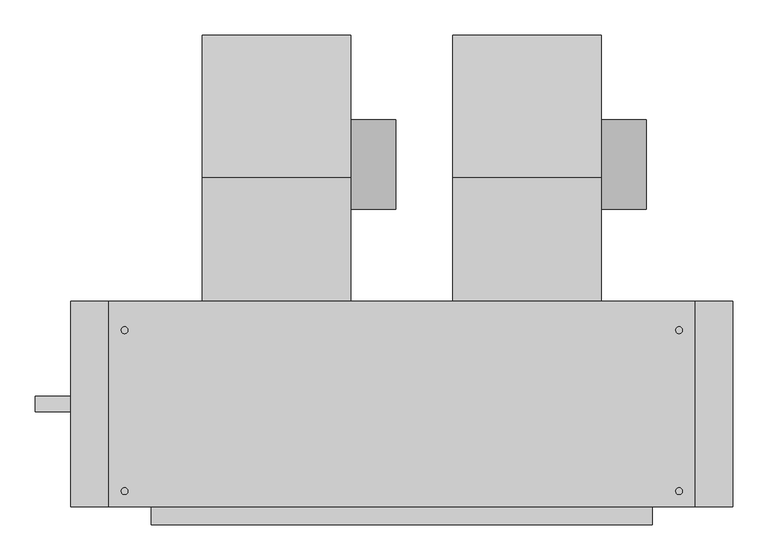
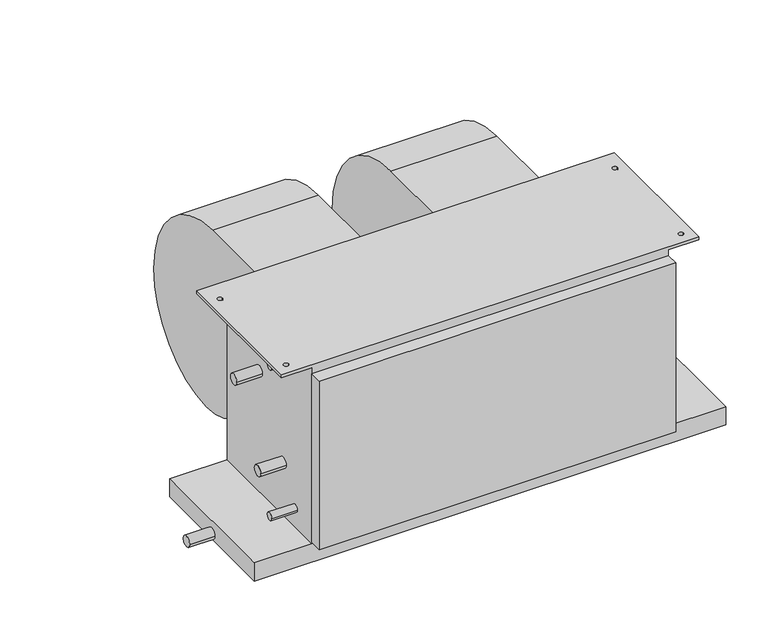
"""IFC4 building model written with IfcOpenShell, lengths in millimetres: proxy geometry, Concealed_High_Capacity_Horizontal_Fan_Coil_Unit_-_42DAA_-_CARRIER_-_4-Pipe_LH_2022 : Size 12 - 277v/60Hz/1Ph - 6/2 Coil."""

from ifc_helpers import new_model, si_unit, point, frame, frame_2d, origin, place, context, project, spatial, polyline, circle_curve, trimmed, segment, composite_curve, outline, extrude, source, transform, mapped, element, save
from ifc_brep_helpers import plane_surface, cylinder_surface, revolved_surface, advanced_brep


def mechanical_equipment_55c23c7e(model_context):
    return source(origin(), model_context, "Body", "SolidModel", [
        extrude(outline(composite_curve([segment(trimmed(circle_curve(frame_2d((117.8757598, -213.2397468)), 63.5), [point((181.3757598, -213.2397468))], [point((54.3757598, -213.2397468))], False, "CARTESIAN"), True, "CONTINUOUS"), segment(trimmed(circle_curve(frame_2d((117.8757598, -213.2397468)), 63.5), [point((54.3757598, -213.2397468))], [point((181.3757598, -213.2397468))], False, "CARTESIAN"), True, "CONTINUOUS")], self_intersect=False)), frame((207.137, 0.0, 0.0), z_axis=(1.0, 0.0, 0.0), x_axis=(0.0, 1.0, 0.0)), (0.0, 0.0, 1.0), 63.5),
        advanced_brep(
        [(-3.937, 301.3905957, -228.379602), (-3.937, 120.4976, -409.99664), (-3.937, -35.0266, -283.45638), (-3.937, -76.2, -283.45638), (-3.937, -76.2, -25.4), (-3.937, 98.8830093, -25.4), (207.137, 301.3905957, -228.379602), (207.137, 98.8830093, -25.4), (207.137, -76.2, -25.4), (207.137, -76.2, -283.45638), (207.137, -35.0266, -283.45638), (207.137, 120.497599, -409.9957839)],
        [
            (0, 1, circle_curve(frame((-3.937, 120.31726, -228.92258), z_axis=(-1.0, 0.0, 0.0), x_axis=(0.0, -1.0, 0.0)), 181.0741498)),
            (1, 2, circle_curve(frame((-3.937, 120.31726, -251.37364), z_axis=(-1.0, 0.0, 0.0), x_axis=(0.0, -1.0, 0.0)), 158.6222464)),
            (2, 3),
            (3, 4),
            (4, 5),
            (5, 0, circle_curve(frame((-3.937, 97.8662, -228.92258), z_axis=(-1.0, 0.0, 0.0), x_axis=(0.0, -1.0, 0.0)), 203.52512)),
            (6, 7, circle_curve(frame((207.137, 97.8662, -228.92258), z_axis=(1.0, 0.0, 0.0), x_axis=(0.0, -1.0, 0.0)), 203.52512)),
            (7, 8),
            (8, 9),
            (9, 10),
            (10, 11, circle_curve(frame((207.137, 120.31726, -251.37364), z_axis=(1.0, 0.0, 0.0), x_axis=(0.0, -1.0, 0.0)), 158.6222464)),
            (11, 6, circle_curve(frame((207.137, 120.31726, -228.92258), z_axis=(1.0, 0.0, 0.0), x_axis=(0.0, -1.0, 0.0)), 181.0741498)),
            (0, 6),
            (11, 1),
            (10, 2),
            (9, 3),
            (8, 4),
            (7, 5),
        ],
        [
            plane_surface(frame((-3.937, -60.7568898, -228.92258), z_axis=(-1.0, 0.0, 0.0), x_axis=(0.0, 0.0, 1.0))),
            plane_surface(frame((207.137, -60.7568898, -228.92258), z_axis=(1.0, 0.0, 0.0), x_axis=(0.0, 0.0, -1.0))),
            cylinder_surface(frame((207.137, 120.31726, -228.92258), z_axis=(-1.0, 0.0, 0.0), x_axis=(0.0, -1.0, 0.0)), 181.0741498),
            cylinder_surface(frame((207.137, 120.31726, -251.37364), z_axis=(-1.0, 0.0, 0.0), x_axis=(0.0, -1.0, 0.0)), 158.6222464),
            plane_surface(frame((-3.937, -35.0266, -283.45638), z_axis=(0.0, 0.0, -1.0), x_axis=(1.0, 0.0, 0.0))),
            plane_surface(frame((-3.937, -76.2, -283.45638), z_axis=(0.0, -1.0, 0.0), x_axis=(1.0, 0.0, 0.0))),
            plane_surface(frame((-3.937, -76.2, -25.4), z_axis=(0.0, 0.0, 1.0), x_axis=(1.0, 0.0, 0.0))),
            cylinder_surface(frame((207.137, 97.8662, -228.92258), z_axis=(-1.0, 0.0, 0.0), x_axis=(0.0, -1.0, 0.0)), 203.52512),
        ],
        [
            (0, [[1, 2, 3, 4, 5, 6]]),
            (1, [[7, 8, 9, 10, 11, 12]]),
            (2, [[-1, 13, -12, 14]]),
            (3, [[-2, -14, -11, 15]]),
            (4, [[-3, -15, -10, 16]]),
            (5, [[-4, -16, -9, 17]]),
            (6, [[-5, -17, -8, 18]]),
            (7, [[-6, -18, -7, -13]]),
        ],
    ),
        extrude(outline(composite_curve([segment(trimmed(circle_curve(frame_2d((117.8757598, -213.2397468)), 63.5), [point((181.3757598, -213.2397468))], [point((54.3757598, -213.2397468))], False, "CARTESIAN"), True, "CONTINUOUS"), segment(trimmed(circle_curve(frame_2d((117.8757598, -213.2397468)), 63.5), [point((54.3757598, -213.2397468))], [point((181.3757598, -213.2397468))], False, "CARTESIAN"), True, "CONTINUOUS")], self_intersect=False)), frame((562.737, 0.0, 0.0), z_axis=(1.0, 0.0, 0.0), x_axis=(0.0, 1.0, 0.0)), (0.0, 0.0, 1.0), 63.5),
        advanced_brep(
        [(351.663, 301.3905957, -228.379602), (351.663, 120.4976, -409.99664), (351.663, -35.0266, -283.45638), (351.663, -76.2, -283.45638), (351.663, -76.2, -25.4), (351.663, 98.8830093, -25.4), (562.737, 301.3905957, -228.379602), (562.737, 98.8830093, -25.4), (562.737, -76.2, -25.4), (562.737, -76.2, -283.45638), (562.737, -35.0266, -283.45638), (562.737, 120.497599, -409.9957839)],
        [
            (0, 1, circle_curve(frame((351.663, 120.31726, -228.92258), z_axis=(-1.0, 0.0, 0.0), x_axis=(0.0, -1.0, 0.0)), 181.0741498)),
            (1, 2, circle_curve(frame((351.663, 120.31726, -251.37364), z_axis=(-1.0, 0.0, 0.0), x_axis=(0.0, -1.0, 0.0)), 158.6222464)),
            (2, 3),
            (3, 4),
            (4, 5),
            (5, 0, circle_curve(frame((351.663, 97.8662, -228.92258), z_axis=(-1.0, 0.0, 0.0), x_axis=(0.0, -1.0, 0.0)), 203.52512)),
            (6, 7, circle_curve(frame((562.737, 97.8662, -228.92258), z_axis=(1.0, 0.0, 0.0), x_axis=(0.0, -1.0, 0.0)), 203.52512)),
            (7, 8),
            (8, 9),
            (9, 10),
            (10, 11, circle_curve(frame((562.737, 120.31726, -251.37364), z_axis=(1.0, 0.0, 0.0), x_axis=(0.0, -1.0, 0.0)), 158.6222464)),
            (11, 6, circle_curve(frame((562.737, 120.31726, -228.92258), z_axis=(1.0, 0.0, 0.0), x_axis=(0.0, -1.0, 0.0)), 181.0741498)),
            (0, 6),
            (11, 1),
            (10, 2),
            (9, 3),
            (8, 4),
            (7, 5),
        ],
        [
            plane_surface(frame((351.663, -60.7568898, -228.92258), z_axis=(-1.0, 0.0, 0.0), x_axis=(0.0, 0.0, 1.0))),
            plane_surface(frame((562.737, -60.7568898, -228.92258), z_axis=(1.0, 0.0, 0.0), x_axis=(0.0, 0.0, -1.0))),
            cylinder_surface(frame((562.737, 120.31726, -228.92258), z_axis=(-1.0, 0.0, 0.0), x_axis=(0.0, -1.0, 0.0)), 181.0741498),
            cylinder_surface(frame((562.737, 120.31726, -251.37364), z_axis=(-1.0, 0.0, 0.0), x_axis=(0.0, -1.0, 0.0)), 158.6222464),
            plane_surface(frame((351.663, -35.0266, -283.45638), z_axis=(0.0, 0.0, -1.0), x_axis=(1.0, 0.0, 0.0))),
            plane_surface(frame((351.663, -76.2, -283.45638), z_axis=(0.0, -1.0, 0.0), x_axis=(1.0, 0.0, 0.0))),
            plane_surface(frame((351.663, -76.2, -25.4), z_axis=(0.0, 0.0, 1.0), x_axis=(1.0, 0.0, 0.0))),
            cylinder_surface(frame((562.737, 97.8662, -228.92258), z_axis=(-1.0, 0.0, 0.0), x_axis=(0.0, -1.0, 0.0)), 203.52512),
        ],
        [
            (0, [[1, 2, 3, 4, 5, 6]]),
            (1, [[7, 8, 9, 10, 11, 12]]),
            (2, [[-1, 13, -12, 14]]),
            (3, [[-2, -14, -11, 15]]),
            (4, [[-3, -15, -10, 16]]),
            (5, [[-4, -16, -9, 17]]),
            (6, [[-5, -17, -8, 18]]),
            (7, [[-6, -18, -7, -13]]),
        ],
    ),
        extrude(outline(polyline([(749.3, -76.2), (749.3, -368.3), (-190.5, -368.3), (-190.5, -76.2), (749.3, -76.2)])), frame((0.0, 0.0, -415.925), z_axis=(0.0, 0.0, 1.0), x_axis=(1.0, 0.0, 0.0)), (0.0, 0.0, 1.0), 38.1),
        extrude(outline(polyline([(635.0, -393.7), (-76.2, -393.7), (-76.2, -368.3), (635.0, -368.3), (635.0, -393.7)])), frame((0.0, 0.0, -374.65), z_axis=(0.0, 0.0, 1.0), x_axis=(1.0, 0.0, 0.0)), (0.0, 0.0, 1.0), 355.6),
        extrude(outline(composite_curve([segment(trimmed(circle_curve(frame_2d((-222.25, -403.225)), 11.1125), [point((-233.3625, -403.225))], [point((-211.1375, -403.225))], False, "CARTESIAN"), True, "CONTINUOUS"), segment(trimmed(circle_curve(frame_2d((-222.25, -403.225)), 11.1125), [point((-211.1375, -403.225))], [point((-233.3625, -403.225))], False, "CARTESIAN"), True, "CONTINUOUS")], self_intersect=False)), frame((-241.3, 0.0, 0.0), z_axis=(1.0, 0.0, 0.0), x_axis=(0.0, 1.0, 0.0)), (0.0, 0.0, 1.0), 50.8),
        extrude(outline(composite_curve([segment(trimmed(circle_curve(frame_2d((-187.325, -122.2375)), 11.1125), [point((-198.4375, -122.2375))], [point((-176.2125, -122.2375))], False, "CARTESIAN"), True, "CONTINUOUS"), segment(trimmed(circle_curve(frame_2d((-187.325, -122.2375)), 11.1125), [point((-176.2125, -122.2375))], [point((-198.4375, -122.2375))], False, "CARTESIAN"), True, "CONTINUOUS")], self_intersect=False)), frame((-127.0, 0.0, 0.0), z_axis=(1.0, 0.0, 0.0), x_axis=(0.0, 1.0, 0.0)), (0.0, 0.0, 1.0), 50.8),
        extrude(outline(composite_curve([segment(trimmed(circle_curve(frame_2d((-269.875, -265.1125)), 11.1125), [point((-280.9875, -265.1125))], [point((-258.7625, -265.1125))], False, "CARTESIAN"), True, "CONTINUOUS"), segment(trimmed(circle_curve(frame_2d((-269.875, -265.1125)), 11.1125), [point((-258.7625, -265.1125))], [point((-280.9875, -265.1125))], False, "CARTESIAN"), True, "CONTINUOUS")], self_intersect=False)), frame((-127.0, 0.0, 0.0), z_axis=(1.0, 0.0, 0.0), x_axis=(0.0, 1.0, 0.0)), (0.0, 0.0, 1.0), 50.8),
        extrude(outline(composite_curve([segment(trimmed(circle_curve(frame_2d((-311.15, -19.05)), 7.9375), [point((-319.0875, -19.05))], [point((-303.2125, -19.05))], False, "CARTESIAN"), True, "CONTINUOUS"), segment(trimmed(circle_curve(frame_2d((-311.15, -19.05)), 7.9375), [point((-303.2125, -19.05))], [point((-319.0875, -19.05))], False, "CARTESIAN"), True, "CONTINUOUS")], self_intersect=False)), frame((-127.0, 0.0, 0.0), z_axis=(1.0, 0.0, 0.0), x_axis=(0.0, 1.0, 0.0)), (0.0, 0.0, 1.0), 50.8),
        extrude(outline(composite_curve([segment(trimmed(circle_curve(frame_2d((-311.15, -336.55)), 7.9375), [point((-319.0875, -336.55))], [point((-303.2125, -336.55))], False, "CARTESIAN"), True, "CONTINUOUS"), segment(trimmed(circle_curve(frame_2d((-311.15, -336.55)), 7.9375), [point((-303.2125, -336.55))], [point((-319.0875, -336.55))], False, "CARTESIAN"), True, "CONTINUOUS")], self_intersect=False)), frame((-127.0, 0.0, 0.0), z_axis=(1.0, 0.0, 0.0), x_axis=(0.0, 1.0, 0.0)), (0.0, 0.0, 1.0), 50.8),
        advanced_brep(
        [(635.0, -76.2, -377.825), (635.0, -368.3, -377.825), (-76.2, -368.3, -377.825), (-76.2, -76.2, -377.825), (-76.2, -368.3, -6.35), (-76.2, -76.2, -6.35), (635.0, -76.2, -6.35), (635.0, -368.3, -6.35), (-136.525, -76.2, 0.0), (-136.525, -368.3, 0.0), (695.325, -368.3, 0.0), (695.325, -76.2, 0.0), (-109.5375, -117.475, 0.0), (-119.0625, -117.475, 0.0), (-109.5375, -346.075, 0.0), (-119.0625, -346.075, 0.0), (677.8625, -117.475, 0.0), (668.3375, -117.475, 0.0), (677.8625, -346.075, 0.0), (668.3375, -346.075, 0.0), (-136.525, -76.2, -6.35), (-136.525, -368.3, -6.35), (-119.0625, -117.475, -6.35), (-109.5375, -117.475, -6.35), (-119.0625, -346.075, -6.35), (-109.5375, -346.075, -6.35), (695.325, -76.2, -6.35), (695.325, -368.3, -6.35), (668.3375, -117.475, -6.35), (677.8625, -117.475, -6.35), (668.3375, -346.075, -6.35), (677.8625, -346.075, -6.35)],
        [
            (0, 1),
            (1, 2),
            (2, 3),
            (3, 0),
            (2, 4),
            (4, 5),
            (5, 3),
            (0, 6),
            (6, 7),
            (7, 1),
            (8, 9),
            (9, 10),
            (10, 11),
            (11, 8),
            (12, 13, circle_curve(frame((-114.3, -117.475, 0.0), z_axis=(0.0, 0.0, -1.0), x_axis=(1.0, 0.0, 0.0)), 4.7625)),
            (13, 12, circle_curve(frame((-114.3, -117.475, 0.0), z_axis=(0.0, 0.0, -1.0), x_axis=(1.0, 0.0, 0.0)), 4.7625)),
            (14, 15, circle_curve(frame((-114.3, -346.075, 0.0), z_axis=(0.0, 0.0, -1.0), x_axis=(1.0, 0.0, 0.0)), 4.7625)),
            (15, 14, circle_curve(frame((-114.3, -346.075, 0.0), z_axis=(0.0, 0.0, -1.0), x_axis=(1.0, 0.0, 0.0)), 4.7625)),
            (16, 17, circle_curve(frame((673.1, -117.475, 0.0), z_axis=(0.0, 0.0, -1.0), x_axis=(1.0, 0.0, 0.0)), 4.7625)),
            (17, 16, circle_curve(frame((673.1, -117.475, 0.0), z_axis=(0.0, 0.0, -1.0), x_axis=(1.0, 0.0, 0.0)), 4.7625)),
            (18, 19, circle_curve(frame((673.1, -346.075, 0.0), z_axis=(0.0, 0.0, -1.0), x_axis=(1.0, 0.0, 0.0)), 4.7625)),
            (19, 18, circle_curve(frame((673.1, -346.075, 0.0), z_axis=(0.0, 0.0, -1.0), x_axis=(1.0, 0.0, 0.0)), 4.7625)),
            (20, 5),
            (4, 21),
            (21, 20),
            (22, 23, circle_curve(frame((-114.3, -117.475, -6.35), z_axis=(0.0, 0.0, 1.0), x_axis=(1.0, 0.0, 0.0)), 4.7625)),
            (23, 22, circle_curve(frame((-114.3, -117.475, -6.35), z_axis=(0.0, 0.0, 1.0), x_axis=(1.0, 0.0, 0.0)), 4.7625)),
            (24, 25, circle_curve(frame((-114.3, -346.075, -6.35), z_axis=(0.0, 0.0, 1.0), x_axis=(1.0, 0.0, 0.0)), 4.7625)),
            (25, 24, circle_curve(frame((-114.3, -346.075, -6.35), z_axis=(0.0, 0.0, 1.0), x_axis=(1.0, 0.0, 0.0)), 4.7625)),
            (26, 27),
            (27, 7),
            (6, 26),
            (28, 29, circle_curve(frame((673.1, -117.475, -6.35), z_axis=(0.0, 0.0, 1.0), x_axis=(1.0, 0.0, 0.0)), 4.7625)),
            (29, 28, circle_curve(frame((673.1, -117.475, -6.35), z_axis=(0.0, 0.0, 1.0), x_axis=(1.0, 0.0, 0.0)), 4.7625)),
            (30, 31, circle_curve(frame((673.1, -346.075, -6.35), z_axis=(0.0, 0.0, 1.0), x_axis=(1.0, 0.0, 0.0)), 4.7625)),
            (31, 30, circle_curve(frame((673.1, -346.075, -6.35), z_axis=(0.0, 0.0, 1.0), x_axis=(1.0, 0.0, 0.0)), 4.7625)),
            (8, 20),
            (21, 9),
            (27, 10),
            (11, 26),
            (12, 23),
            (22, 13),
            (14, 25),
            (24, 15),
            (16, 29),
            (28, 17),
            (18, 31),
            (30, 19),
        ],
        [
            plane_surface(frame((-76.2, -76.2, -377.825), z_axis=(0.0, 0.0, -1.0), x_axis=(1.0, 0.0, 0.0))),
            plane_surface(frame((-76.2, -76.2, 0.0), z_axis=(-1.0, 0.0, 0.0), x_axis=(0.0, 0.0, -1.0))),
            plane_surface(frame((635.0, -368.3, 0.0), z_axis=(1.0, 0.0, 0.0), x_axis=(0.0, 0.0, -1.0))),
            plane_surface(frame((-136.525, -76.2, 0.0), z_axis=(0.0, 0.0, 1.0), x_axis=(0.0, -1.0, 0.0))),
            plane_surface(frame((-136.525, -76.2, -6.35), z_axis=(0.0, 0.0, -1.0), x_axis=(0.0, 1.0, 0.0))),
            plane_surface(frame((-136.525, -76.2, 0.0), z_axis=(-1.0, 0.0, 0.0), x_axis=(0.0, 0.0, -1.0))),
            plane_surface(frame((-136.525, -368.3, 0.0), z_axis=(0.0, -1.0, 0.0), x_axis=(0.0, 0.0, -1.0))),
            plane_surface(frame((-76.2, -76.2, 0.0), z_axis=(0.0, 1.0, 0.0), x_axis=(0.0, 0.0, -1.0))),
            plane_surface(frame((695.325, -368.3, 0.0), z_axis=(1.0, 0.0, 0.0), x_axis=(0.0, 0.0, -1.0))),
            revolved_surface(polyline([(-109.5375, -117.475, 0.0), (-109.5375, -117.475, -6.35)]), (-114.3, -117.475, -6.35), (0.0, 0.0, 1.0)),
            revolved_surface(polyline([(-109.5375, -346.075, 0.0), (-109.5375, -346.075, -6.35)]), (-114.3, -346.075, 0.0), (0.0, 0.0, 1.0)),
            revolved_surface(polyline([(677.8625000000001, -117.475, 0.0), (677.8625000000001, -117.475, -6.35)]), (673.1, -117.475, 0.0), (0.0, 0.0, 1.0)),
            revolved_surface(polyline([(677.8625000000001, -346.075, 0.0), (677.8625000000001, -346.075, -6.35)]), (673.1, -346.075, 0.0), (0.0, 0.0, 1.0)),
        ],
        [
            (0, [[1, 2, 3, 4]]),
            (1, [[-3, 5, 6, 7]]),
            (2, [[-1, 8, 9, 10]]),
            (3, [[11, 12, 13, 14], [15, 16], [17, 18], [19, 20], [21, 22]]),
            (4, [[23, -6, 24, 25], [26, 27], [28, 29]]),
            (4, [[30, 31, -9, 32], [33, 34], [35, 36]]),
            (5, [[-11, 37, -25, 38]]),
            (6, [[-12, -38, -24, -5, -2, -10, -31, 39]]),
            (7, [[-14, 40, -32, -8, -4, -7, -23, -37]]),
            (8, [[-13, -39, -30, -40]]),
            (9, [[41, -26, 42, -15]]),
            (9, [[-41, -16, -42, -27]]),
            (10, [[43, -28, 44, -17]]),
            (10, [[-43, -18, -44, -29]]),
            (11, [[45, -33, 46, -19]]),
            (11, [[-45, -20, -46, -34]]),
            (12, [[47, -35, 48, -21]]),
            (12, [[-47, -22, -48, -36]]),
        ],
    ),
    ])


if __name__ == "__main__":
    model = new_model("IFC4")
    model_context = context("Model", 3, world=origin())
    ifc_project = project(units=[si_unit("LENGTHUNIT", "METRE", prefix="MILLI")], contexts=[model_context])
    site = spatial("IfcSite", under=ifc_project)
    building = spatial("IfcBuilding", under=site)
    placement = place(None, origin())
    mechanical_equipment_shape = mechanical_equipment_55c23c7e(model_context)
    element("IfcBuildingElementProxy", 1, Name="Concealed_High_Capacity_Horizontal_Fan_Coil_Unit_-_42DAA_-_CARRIER_-_4-Pipe_LH_2022 : Size 12 - 277v/60Hz/1Ph - 6/2 Coil", ObjectType="Concealed_High_Capacity_Horizontal_Fan_Coil_Unit_-_42DAA_-_CARRIER_-_4-Pipe_LH_2022 : Size 12 - 277v/60Hz/1Ph - 6/2 Coil", at=placement, inside=building, context=model_context, shape_type="MappedRepresentation", body=[
        mapped(mechanical_equipment_shape, transform((0.0, 0.0, 0.0), x_axis=(1.0, 0.0, 0.0), y_axis=(0.0, 1.0, 0.0), z_axis=(0.0, 0.0, 1.0))),
    ])
    save(model, "model.ifc")
